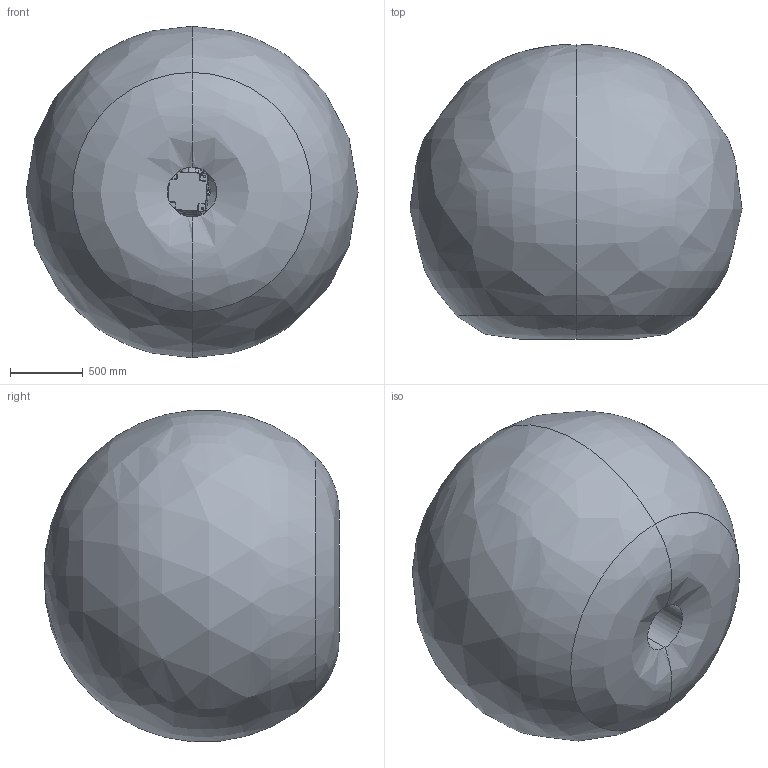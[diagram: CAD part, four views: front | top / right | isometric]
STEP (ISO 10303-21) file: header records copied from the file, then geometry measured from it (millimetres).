
FILE_DESCRIPTION (( 'STEP AP214' ), '1' );
FILE_NAME ('ER10-1100V1-00000 总装部分.STEP', '2023-10-10T02:14:03', ( '' ), ( '' ), 'SwSTEP 2.0', 'SolidWorks 2018', '' );
FILE_SCHEMA (( 'AUTOMOTIVE_DESIGN' ));
Length unit declared in the file: millimetre
Products named in the file (9): ER10-1100V1-00000 軞蚾窒煦; 手腕部分^ER10-1100V1-00000 总装部分; 电机座部分^ER10-1100V1-00000 总装部分; 转座部分^ER10-1100V1-00000 总装部分; 运动范围图^ER10-1100V1-00000 总装部分; 底座部分^ER10-1100V1-00000 总装部分; 大臂部分^ER10-1100V1-00000 总装部分; 小臂部分^ER10-1100V1-00000 总装部分; 末端法兰^ER10-1100V1-00000 总装部分
Assembly tree (8 placements, depth 2):
  ER10-1100V1-00000 軞蚾窒煦
    转座部分^ER10-1100V1-00000 总装部分
    底座部分^ER10-1100V1-00000 总装部分
    大臂部分^ER10-1100V1-00000 总装部分
    电机座部分^ER10-1100V1-00000 总装部分
    小臂部分^ER10-1100V1-00000 总装部分
    手腕部分^ER10-1100V1-00000 总装部分
    末端法兰^ER10-1100V1-00000 总装部分
    运动范围图^ER10-1100V1-00000 总装部分
Bounding box: 2283.55 x 2026.52 x 2279.03 mm (x, y, z)
Volume: 5888909564.7 mm3; surface area: 19316688 mm2
Topology: 43 solids, 51 shells, 3519 faces, 8758 edges, 5595 vertices
Faces by surface type: plane 1138, cylinder 928, bspline 764, cone 494, torus 175, sphere 20
Entity records: 253838 total; most frequent: CARTESIAN_POINT 139351, ORIENTED_EDGE 17306, DIRECTION 13807, EDGE_CURVE 8655, VERTEX_POINT 5586, AXIS2_PLACEMENT_3D 5528, EDGE_LOOP 3947, FACE_OUTER_BOUND 3519
